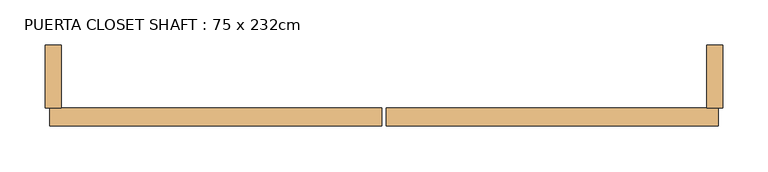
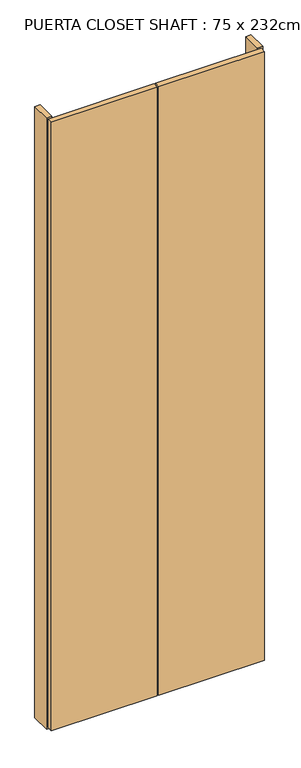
"""IFC4 building model written with IfcOpenShell, lengths in millimetres: door geometry, PUERTA CLOSET SHAFT : 75 x 232cm."""

from ifc_helpers import new_model, si_unit, frame, origin, origin_with_axes, place, context, project, spatial, polyline, outline, extrude, source, transform, mapped, element, save


def puerta_closet_shaft_75_x_232cm_f7ce9964(model_context):
    return source(origin(), model_context, "Body", "SweptSolid", [
        extrude(outline(polyline([(-1139.0315708, -35.0), (-771.5315708, -35.0), (-771.5315708, -55.0), (-1139.0315708, -55.0), (-1139.0315708, -35.0)])), frame((0.0, 0.0, 5.0), z_axis=(0.0, 0.0, 1.0), x_axis=(1.0, 0.0, 0.0)), (0.0, 0.0, 1.0), 2230.0),
        extrude(outline(polyline([(-1144.0315708, -35.0), (-1144.0315708, -55.0), (-1511.5315708, -55.0), (-1511.5315708, -35.0), (-1144.0315708, -35.0)])), frame((0.0, 0.0, 5.0), z_axis=(0.0, 0.0, 1.0), x_axis=(1.0, 0.0, 0.0)), (0.0, 0.0, 1.0), 2230.0),
        extrude(outline(polyline([(-766.5315708, -35.0), (-784.5315708, -35.0), (-784.5315708, 35.0), (-766.5315708, 35.0), (-766.5315708, -35.0)])), origin_with_axes(), (0.0, 0.0, 1.0), 2240.0),
        extrude(outline(polyline([(-1498.5315708, -35.0), (-1516.5315708, -35.0), (-1516.5315708, 35.0), (-1498.5315708, 35.0), (-1498.5315708, -35.0)])), origin_with_axes(), (0.0, 0.0, 1.0), 2240.0),
    ])


if __name__ == "__main__":
    model = new_model("IFC4")
    model_context = context("Model", 3, world=origin())
    ifc_project = project(units=[si_unit("LENGTHUNIT", "METRE", prefix="MILLI")], contexts=[model_context])
    site = spatial("IfcSite", under=ifc_project)
    building = spatial("IfcBuilding", under=site)
    placement = place(None, origin())
    puerta_closet_shaft_75_x_232cm_shape = puerta_closet_shaft_75_x_232cm_f7ce9964(model_context)
    element("IfcDoor", 1, ObjectType="PUERTA CLOSET SHAFT : 75 x 232cm", at=placement, inside=building, context=model_context, shape_type="MappedRepresentation", body=[
        mapped(puerta_closet_shaft_75_x_232cm_shape, transform((0.0, 0.0, 0.0), x_axis=(1.0, 0.0, 0.0), y_axis=(0.0, 1.0, 0.0), z_axis=(0.0, 0.0, 1.0))),
    ])
    save(model, "model.ifc")
